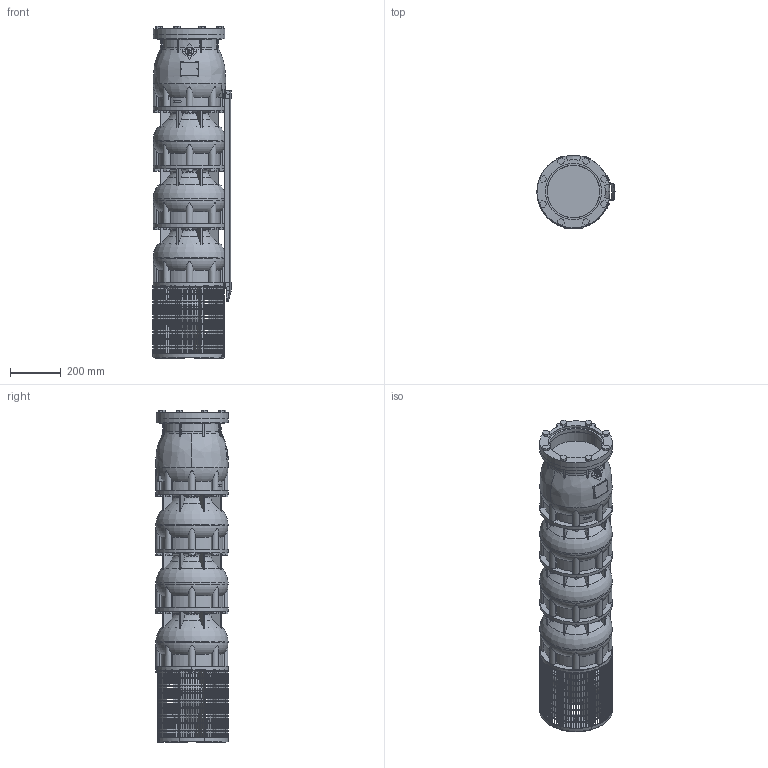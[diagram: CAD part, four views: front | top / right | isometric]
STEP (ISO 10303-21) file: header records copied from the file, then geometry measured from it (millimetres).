
FILE_DESCRIPTION(/* description */ ('-'),/* implementation_level */ '2;1');
FILE_NAME(/* name */ 'VSI454-3-2D_WF_M8-50_DLE',/* time_stamp */ '2026-01-21T14:33:10+01:00',/* author */ ('Simonelli M.'),/* organization */ ('Franklin Electric Srl'),/* preprocessor_version */ 'ST-DEVELOPER v18.102',/* originating_system */ 'Solid Edge',/* authorisation */ 'Unknown');
FILE_SCHEMA (('AUTOMOTIVE_DESIGN {1 0 10303 214 3 1 1}'));
Products named in the file (12): VSI454-3-2D_WF_M8-50_DLE; VSI344-454_testata; VSI344-454_supporto; VSI344-454_filtro_A; VSI344-454_filtro_B; VSI344-454_terminale_top_copricavo_basso; VSI344-454_terminale_bottom_copricavo_basso; LOW 454-3; VSI454_diffusore; M5X8_UNI7687; VSI184-254_giunto_10×8; VSI344-454_flangia_testata
Assembly tree (22 placements, depth 2):
  VSI454-3-2D_WF_M8-50_DLE
    VSI344-454_testata
    VSI344-454_supporto
    VSI344-454_filtro_A
    VSI344-454_filtro_B
    VSI344-454_terminale_top_copricavo_basso
    VSI344-454_terminale_bottom_copricavo_basso
    LOW 454-3
    VSI454_diffusore  x3
    M5X8_UNI7687  x10
    VSI184-254_giunto_10×8
    VSI344-454_flangia_testata
Bounding box: 306.94 x 286 x 1305 mm (x, y, z)
Volume: 52129343 mm3; surface area: 2826337.1 mm2
Topology: 87 solids, 87 shells, 4260 faces, 12003 edges, 7973 vertices
Faces by surface type: plane 3420, cylinder 515, torus 215, cone 85, bspline 15, sphere 10
Full cylindrical faces by diameter (mm): 5 x10, 16 x8, 35 x1, 65 x1, 69 x1, 150 x1, 207 x1, 220.5 x1, 284.507 x3, 285 x3
Entity records: 127590 total; most frequent: CARTESIAN_POINT 28628, ORIENTED_EDGE 20792, DIRECTION 19892, EDGE_CURVE 10396, VERTEX_POINT 6933, AXIS2_PLACEMENT_3D 6717, LINE 6458, VECTOR 6458
